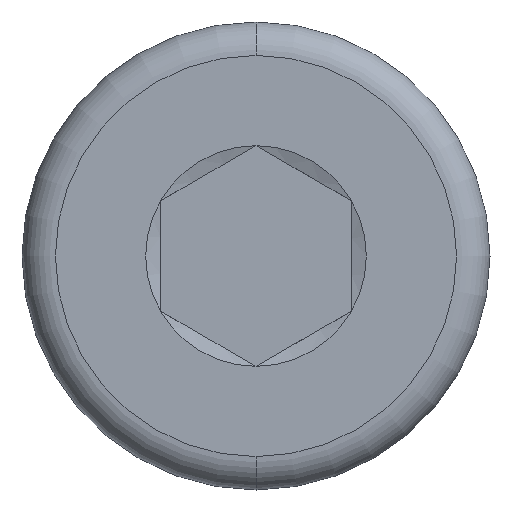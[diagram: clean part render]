
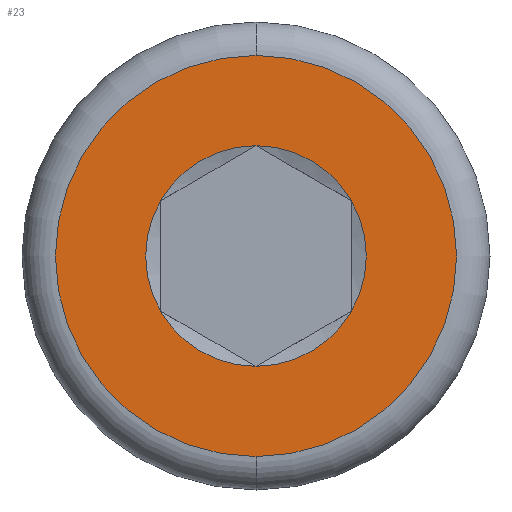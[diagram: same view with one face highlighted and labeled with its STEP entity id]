
A CAD part, left-side view. The second image highlights one B-rep face of the part: STEP entity #23.
In plain terms, the highlighted planar face has unit normal (-1, 0, 0).
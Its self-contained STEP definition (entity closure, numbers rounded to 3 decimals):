
#4 = DIRECTION ( 'NONE',  ( 0., 0., -1. ) ) ;
#13 = CARTESIAN_POINT ( 'NONE',  ( 0., 0., 0. ) ) ;
#17 = FACE_OUTER_BOUND ( 'NONE', #667, .T. ) ;
#23 = ADVANCED_FACE ( 'NONE', ( #596, #17 ), #428, .T. ) ;
#26 = CARTESIAN_POINT ( 'NONE',  ( 0., -2., -1.155 ) ) ;
#28 = DIRECTION ( 'NONE',  ( 1., 0., 0. ) ) ;
#43 = EDGE_CURVE ( 'NONE', #461, #129, #232, .T. ) ;
#55 = DIRECTION ( 'NONE',  ( 0., 0., -1. ) ) ;
#64 = CARTESIAN_POINT ( 'NONE',  ( 0., 0., 0. ) ) ;
#67 = CARTESIAN_POINT ( 'NONE',  ( 0., 0., 0. ) ) ;
#87 = ORIENTED_EDGE ( 'NONE', *, *, #358, .T. ) ;
#91 = AXIS2_PLACEMENT_3D ( 'NONE', #443, #328, #385 ) ;
#108 = DIRECTION ( 'NONE',  ( 1., 0., 0. ) ) ;
#120 = CIRCLE ( 'NONE', #330, 2.309 ) ;
#123 = AXIS2_PLACEMENT_3D ( 'NONE', #603, #28, #344 ) ;
#129 = VERTEX_POINT ( 'NONE', #531 ) ;
#130 = CARTESIAN_POINT ( 'NONE',  ( 0., 2., -1.155 ) ) ;
#132 = CIRCLE ( 'NONE', #285, 2.309 ) ;
#144 = DIRECTION ( 'NONE',  ( 1., 0., 0. ) ) ;
#153 = AXIS2_PLACEMENT_3D ( 'NONE', #64, #541, #651 ) ;
#157 = DIRECTION ( 'NONE',  ( 0., 0., -1. ) ) ;
#158 = EDGE_LOOP ( 'NONE', ( #87, #573, #407, #289, #277, #322 ) ) ;
#172 = CARTESIAN_POINT ( 'NONE',  ( 0., 0., 4.2 ) ) ;
#178 = AXIS2_PLACEMENT_3D ( 'NONE', #365, #108, #55 ) ;
#179 = DIRECTION ( 'NONE',  ( 1., 0., 0. ) ) ;
#200 = CIRCLE ( 'NONE', #477, 2.309 ) ;
#219 = EDGE_CURVE ( 'NONE', #296, #556, #120, .T. ) ;
#231 = EDGE_CURVE ( 'NONE', #363, #279, #447, .T. ) ;
#232 = CIRCLE ( 'NONE', #617, 2.309 ) ;
#277 = ORIENTED_EDGE ( 'NONE', *, *, #319, .T. ) ;
#279 = VERTEX_POINT ( 'NONE', #488 ) ;
#285 = AXIS2_PLACEMENT_3D ( 'NONE', #393, #452, #396 ) ;
#286 = CIRCLE ( 'NONE', #588, 2.309 ) ;
#289 = ORIENTED_EDGE ( 'NONE', *, *, #219, .T. ) ;
#292 = VERTEX_POINT ( 'NONE', #446 ) ;
#296 = VERTEX_POINT ( 'NONE', #26 ) ;
#308 = CARTESIAN_POINT ( 'NONE',  ( 0., 0., 0. ) ) ;
#319 = EDGE_CURVE ( 'NONE', #556, #461, #200, .T. ) ;
#322 = ORIENTED_EDGE ( 'NONE', *, *, #43, .T. ) ;
#328 = DIRECTION ( 'NONE',  ( 1., 0., 0. ) ) ;
#329 = DIRECTION ( 'NONE',  ( 1., 0., 0. ) ) ;
#330 = AXIS2_PLACEMENT_3D ( 'NONE', #411, #144, #157 ) ;
#344 = DIRECTION ( 'NONE',  ( 0., 0., -1. ) ) ;
#358 = EDGE_CURVE ( 'NONE', #129, #292, #375, .T. ) ;
#363 = VERTEX_POINT ( 'NONE', #172 ) ;
#365 = CARTESIAN_POINT ( 'NONE',  ( 0., 0., 0. ) ) ;
#375 = CIRCLE ( 'NONE', #91, 2.309 ) ;
#385 = DIRECTION ( 'NONE',  ( 0., 0., -1. ) ) ;
#393 = CARTESIAN_POINT ( 'NONE',  ( 0., 0., 0. ) ) ;
#396 = DIRECTION ( 'NONE',  ( 0., 0., -1. ) ) ;
#407 = ORIENTED_EDGE ( 'NONE', *, *, #642, .T. ) ;
#408 = CARTESIAN_POINT ( 'NONE',  ( 0., 0., -2.309 ) ) ;
#411 = CARTESIAN_POINT ( 'NONE',  ( 0., 0., 0. ) ) ;
#419 = ORIENTED_EDGE ( 'NONE', *, *, #528, .F. ) ;
#428 = PLANE ( 'NONE',  #153 ) ;
#443 = CARTESIAN_POINT ( 'NONE',  ( 0., 0., 0. ) ) ;
#446 = CARTESIAN_POINT ( 'NONE',  ( 0., 0., 2.309 ) ) ;
#447 = CIRCLE ( 'NONE', #178, 4.2 ) ;
#450 = EDGE_CURVE ( 'NONE', #292, #515, #132, .T. ) ;
#452 = DIRECTION ( 'NONE',  ( 1., 0., 0. ) ) ;
#460 = CARTESIAN_POINT ( 'NONE',  ( 0., -2., 1.155 ) ) ;
#461 = VERTEX_POINT ( 'NONE', #130 ) ;
#477 = AXIS2_PLACEMENT_3D ( 'NONE', #13, #179, #655 ) ;
#479 = CIRCLE ( 'NONE', #123, 4.2 ) ;
#488 = CARTESIAN_POINT ( 'NONE',  ( 0., 0., -4.2 ) ) ;
#515 = VERTEX_POINT ( 'NONE', #460 ) ;
#517 = ORIENTED_EDGE ( 'NONE', *, *, #231, .F. ) ;
#528 = EDGE_CURVE ( 'NONE', #279, #363, #479, .T. ) ;
#531 = CARTESIAN_POINT ( 'NONE',  ( 0., 2., 1.155 ) ) ;
#533 = DIRECTION ( 'NONE',  ( 0., 0., -1. ) ) ;
#541 = DIRECTION ( 'NONE',  ( -1., 0., 0. ) ) ;
#556 = VERTEX_POINT ( 'NONE', #408 ) ;
#573 = ORIENTED_EDGE ( 'NONE', *, *, #450, .T. ) ;
#578 = DIRECTION ( 'NONE',  ( 1., 0., 0. ) ) ;
#588 = AXIS2_PLACEMENT_3D ( 'NONE', #308, #578, #4 ) ;
#596 = FACE_BOUND ( 'NONE', #158, .T. ) ;
#603 = CARTESIAN_POINT ( 'NONE',  ( 0., 0., 0. ) ) ;
#617 = AXIS2_PLACEMENT_3D ( 'NONE', #67, #329, #533 ) ;
#642 = EDGE_CURVE ( 'NONE', #515, #296, #286, .T. ) ;
#651 = DIRECTION ( 'NONE',  ( 0., 0., 1. ) ) ;
#655 = DIRECTION ( 'NONE',  ( 0., 0., -1. ) ) ;
#667 = EDGE_LOOP ( 'NONE', ( #419, #517 ) ) ;
